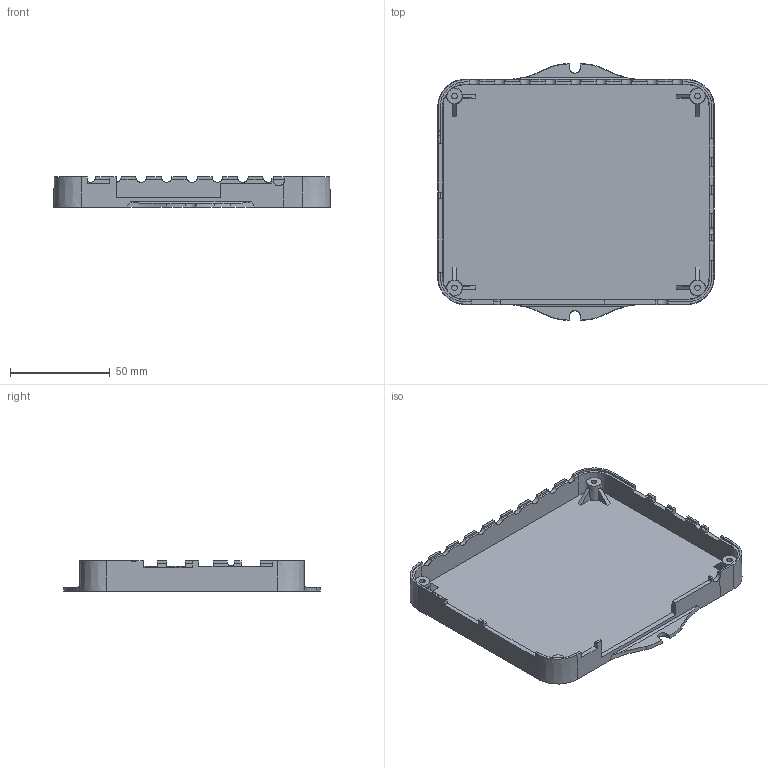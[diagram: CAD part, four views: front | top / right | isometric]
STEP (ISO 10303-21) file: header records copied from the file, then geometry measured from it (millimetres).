
FILE_DESCRIPTION(/* description */ (''),/* implementation_level */ '2;1');
FILE_NAME(/* name */ '/Users/d4/Downloads/stm32 v0.7b v68 bottom.step',/* time_stamp */ '2020-01-22T10:32:25+00:00',/* author */ (''),/* organization */ (''),/* preprocessor_version */ 'ST-DEVELOPER v18',/* originating_system */ 'Autodesk Translation Framework v8.12.0.6',/* authorisation */ '');
FILE_SCHEMA (('AUTOMOTIVE_DESIGN { 1 0 10303 214 3 1 1 }'));
Length unit declared in the file: millimetre
Products named in the file (3): stm32 v0.7b; proto3; bottom_case
Assembly tree (2 placements, depth 3):
  stm32 v0.7b
    proto3
      bottom_case
Bounding box: 138.33 x 128.45 x 15.08 mm (x, y, z)
Volume: 45616.9 mm3; surface area: 44411.7 mm2
Topology: 1 solids, 1 shells, 213 faces, 622 edges, 415 vertices
Faces by surface type: plane 159, cylinder 26, bspline 14, cone 14
Full cylindrical faces by diameter (mm): 2.8 x4
Entity records: 7652 total; most frequent: CARTESIAN_POINT 1958, ORIENTED_EDGE 1244, DIRECTION 1128, EDGE_CURVE 622, VERTEX_POINT 415, LINE 396, VECTOR 396, AXIS2_PLACEMENT_3D 366
